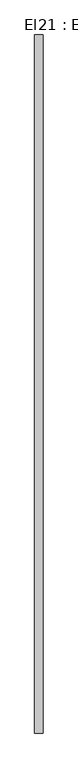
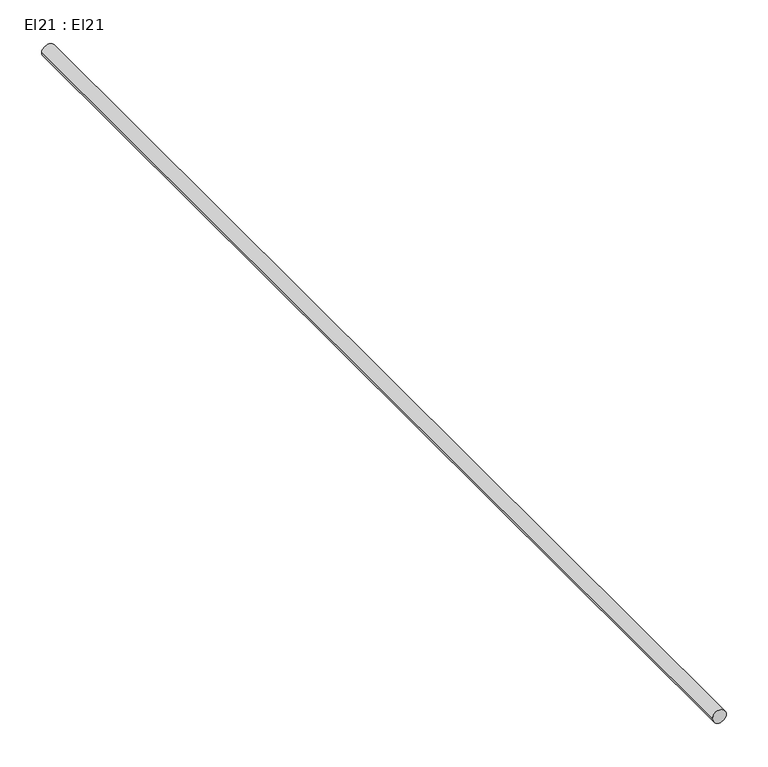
"""IFC4 building model written with IfcOpenShell, lengths in millimetres: cable carrier segment geometry, El21 : El21."""

from ifc_helpers import new_model, si_unit, point, frame, frame_2d, origin, place, context, project, spatial, circle_curve, trimmed, segment, composite_curve, outline, extrude, source, transform, mapped, element, save


def el21_el21_192b64dd(model_context):
    return source(origin(), model_context, "Body", "SweptSolid", [
        extrude(outline(composite_curve([segment(trimmed(circle_curve(frame_2d((300.0, 3900.0)), 9.5), [point((300.0, 3890.5))], [point((300.0, 3909.5))], False, "CARTESIAN"), True, "CONTINUOUS"), segment(trimmed(circle_curve(frame_2d((300.0, 3900.0)), 9.5), [point((300.0, 3909.5))], [point((300.0, 3890.5))], False, "CARTESIAN"), True, "CONTINUOUS")], self_intersect=False)), frame((0.0, 16899.353, 0.0), z_axis=(0.0, 1.0, 0.0), x_axis=(0.0, 0.0, 1.0)), (0.0, 0.0, 1.0), 1604.69),
    ])


if __name__ == "__main__":
    model = new_model("IFC4")
    model_context = context("Model", 3, world=origin())
    ifc_project = project(units=[si_unit("LENGTHUNIT", "METRE", prefix="MILLI")], contexts=[model_context])
    site = spatial("IfcSite", under=ifc_project)
    building = spatial("IfcBuilding", under=site)
    placement = place(None, origin())
    el21_el21_shape = el21_el21_192b64dd(model_context)
    element("IfcCableCarrierSegment", 1, ObjectType="El21 : El21", at=placement, inside=building, context=model_context, shape_type="MappedRepresentation", body=[
        mapped(el21_el21_shape, transform((0.0, 0.0, 0.0), x_axis=(1.0, 0.0, 0.0), y_axis=(0.0, 1.0, 0.0), z_axis=(0.0, 0.0, 1.0))),
    ])
    save(model, "model.ifc")
